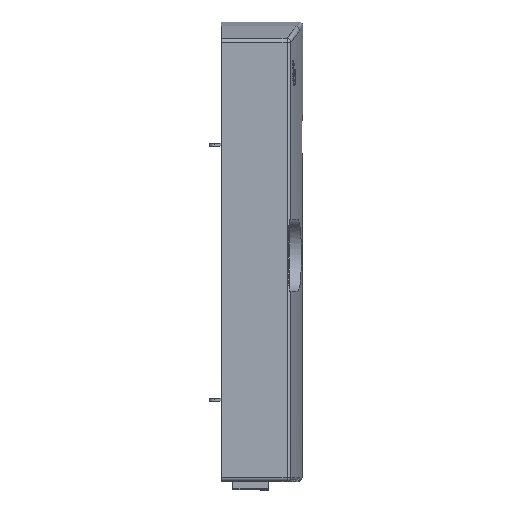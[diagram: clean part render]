
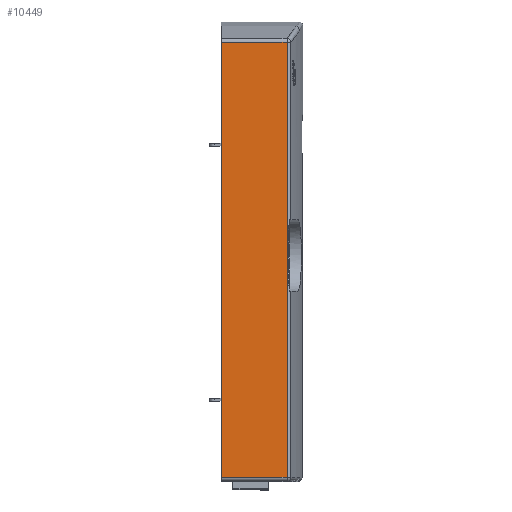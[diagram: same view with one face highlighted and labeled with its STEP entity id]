
A CAD part, top view. The second image highlights one B-rep face of the part: STEP entity #10449.
In plain terms, the highlighted planar face has unit normal (0, 0, 1).
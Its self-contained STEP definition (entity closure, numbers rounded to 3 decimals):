
#1288 = EDGE_LOOP ( 'NONE', ( #1481, #1482, #1483, #1484 ) ) ;
#1481 = ORIENTED_EDGE ( 'NONE', *, *, #16286, .T. ) ;
#1482 = ORIENTED_EDGE ( 'NONE', *, *, #16287, .T. ) ;
#1483 = ORIENTED_EDGE ( 'NONE', *, *, #16288, .T. ) ;
#1484 = ORIENTED_EDGE ( 'NONE', *, *, #16289, .T. ) ;
#2669 = CARTESIAN_POINT ( 'NONE',  ( 34.732, 221.8, 21.601 ) ) ;
#2672 = FACE_OUTER_BOUND ( 'NONE', #1288, .T. ) ;
#2673 = PLANE ( 'NONE',  #3359 ) ;
#2676 = DIRECTION ( 'NONE',  ( 0., 0., -1. ) ) ;
#2677 = DIRECTION ( 'NONE',  ( -1., 0., 0. ) ) ;
#3359 = AXIS2_PLACEMENT_3D ( 'NONE', #2669, #2676, #2677 ) ;
#5619 = VERTEX_POINT ( 'NONE', #8062 ) ;
#5620 = VERTEX_POINT ( 'NONE', #8063 ) ;
#5622 = VERTEX_POINT ( 'NONE', #8065 ) ;
#5632 = VERTEX_POINT ( 'NONE', #8075 ) ;
#5658 = VECTOR ( 'NONE', #14211, 1000. ) ;
#5662 = VECTOR ( 'NONE', #14209, 1000. ) ;
#5665 = VECTOR ( 'NONE', #14214, 1000. ) ;
#5666 = VECTOR ( 'NONE', #14217, 1000. ) ;
#8062 = CARTESIAN_POINT ( 'NONE',  ( 0., -7.2, 21.601 ) ) ;
#8063 = CARTESIAN_POINT ( 'NONE',  ( 0., 211.265, 21.601 ) ) ;
#8065 = CARTESIAN_POINT ( 'NONE',  ( 33.096, 211.265, 21.601 ) ) ;
#8075 = CARTESIAN_POINT ( 'NONE',  ( 33.096, -7.2, 21.601 ) ) ;
#10449 = ADVANCED_FACE ( 'NONE', ( #2672 ), #2673, .F. ) ;
#14194 = LINE ( 'NONE', #14210, #5658 ) ;
#14206 = LINE ( 'NONE', #14208, #5662 ) ;
#14208 = CARTESIAN_POINT ( 'NONE',  ( 33.096, 221.8, 21.601 ) ) ;
#14209 = DIRECTION ( 'NONE',  ( 0., 1., 0. ) ) ;
#14210 = CARTESIAN_POINT ( 'NONE',  ( 0., 211.265, 21.601 ) ) ;
#14211 = DIRECTION ( 'NONE',  ( -1., 0., 0. ) ) ;
#14212 = LINE ( 'NONE', #14213, #5665 ) ;
#14213 = CARTESIAN_POINT ( 'NONE',  ( 0., 221.8, 21.601 ) ) ;
#14214 = DIRECTION ( 'NONE',  ( 0., -1., 0. ) ) ;
#14215 = LINE ( 'NONE', #14216, #5666 ) ;
#14216 = CARTESIAN_POINT ( 'NONE',  ( 34.732, -7.2, 21.601 ) ) ;
#14217 = DIRECTION ( 'NONE',  ( 1., 0., 0. ) ) ;
#16286 = EDGE_CURVE ( 'NONE', #5632, #5622, #14206, .T. ) ;
#16287 = EDGE_CURVE ( 'NONE', #5622, #5620, #14194, .T. ) ;
#16288 = EDGE_CURVE ( 'NONE', #5620, #5619, #14212, .T. ) ;
#16289 = EDGE_CURVE ( 'NONE', #5619, #5632, #14215, .T. ) ;
